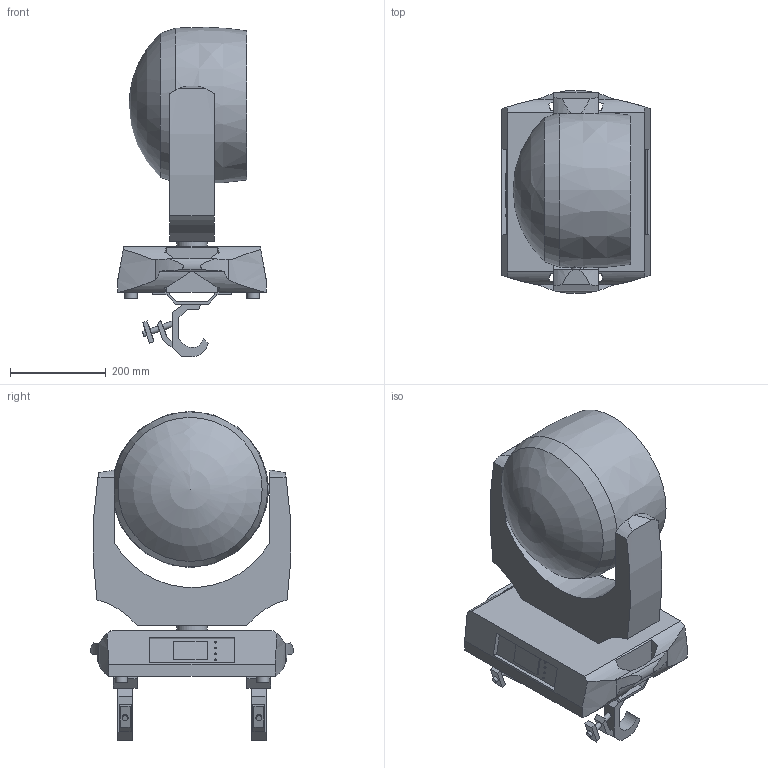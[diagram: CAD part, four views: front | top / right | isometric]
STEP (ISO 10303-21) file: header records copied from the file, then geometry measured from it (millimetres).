
FILE_DESCRIPTION( ( '' ), '1' );
FILE_NAME( 'K:/ROBE-LED/203 Robin 1000 LED Beam/11 3D_2D/3D_LB1000.stp', '2014-04-07T17:15:03', ( 'Ing.Rostislav Hába' ), ( 'ROBE lighting' ), 'PSStep 16.0.42', 'Siemens-SolidEdge', ' ' );
FILE_SCHEMA( ( 'AUTOMOTIVE_DESIGN { 1 0 10303 214 1 1 1 1 }' ) );
Length unit declared in the file: millimetre
Products named in the file (7): Omega_SlimClamp_00; Omega+SlimClamp; Clamp Doughty Slimline QT; Assem1; Base LB1000; Arm LB1000; Head LB1000
Assembly tree (7 placements, depth 3):
  Assem1
    Base LB1000
    Arm LB1000
    Head LB1000
    Omega_SlimClamp_00  x2
      Omega+SlimClamp
      Clamp Doughty Slimline QT
Bounding box: 311.55 x 423.87 x 689.74 mm (x, y, z)
Volume: 33264120.2 mm3; surface area: 1115134 mm2
Topology: 7 solids, 7 shells, 208 faces, 522 edges, 352 vertices
Faces by surface type: plane 141, cylinder 64, sphere 1, cone 1, bspline 1
Full cylindrical faces by diameter (mm): 2.973 x1, 3.243 x2, 3.513 x1, 11 x4, 12 x16, 13 x2, 17 x1, 26 x4, 64 x2
Entity records: 6595 total; most frequent: CARTESIAN_POINT 1561, DIRECTION 762, ORIENTED_EDGE 694, EDGE_CURVE 347, AXIS2_PLACEMENT_3D 279, VERTEX_POINT 250, EDGE_LOOP 224, LINE 204
